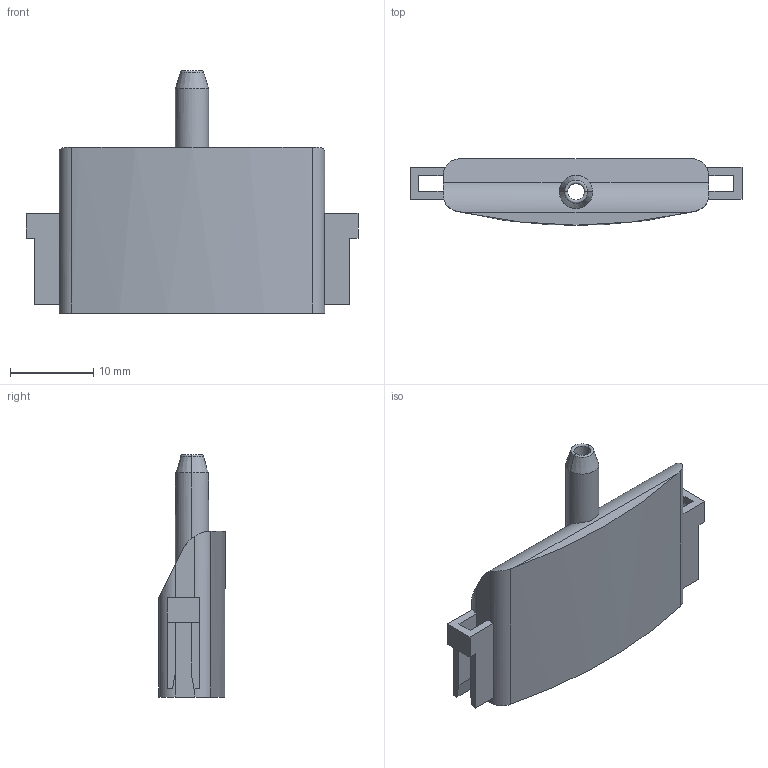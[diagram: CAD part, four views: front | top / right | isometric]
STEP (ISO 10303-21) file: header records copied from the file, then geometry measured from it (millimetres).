
FILE_DESCRIPTION (( 'STEP AP203' ), '1' );
FILE_NAME ('BoitierPlatPrincipal.STEP', '2026-06-25T14:48:23', ( '' ), ( '' ), 'SwSTEP 2.0', 'SolidWorks 2025', '' );
FILE_SCHEMA (( 'CONFIG_CONTROL_DESIGN' ));
Length unit declared in the file: millimetre
Products named in the file (1): BoitierPlatPrincipal
Bounding box: 40 x 8 x 29.17 mm (x, y, z)
Volume: 1678 mm3; surface area: 3479.1 mm2
Topology: 1 solids, 1 shells, 61 faces, 182 edges, 118 vertices
Faces by surface type: plane 41, cylinder 16, torus 2, cone 2
Entity records: 2215 total; most frequent: CARTESIAN_POINT 512, ORIENTED_EDGE 364, DIRECTION 316, EDGE_CURVE 182, LINE 128, VECTOR 128, VERTEX_POINT 118, AXIS2_PLACEMENT_3D 94
